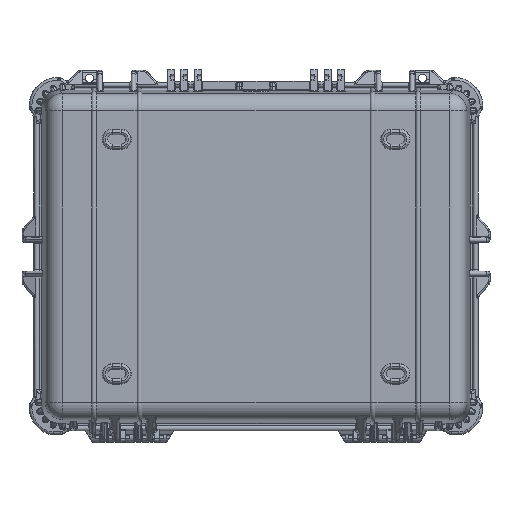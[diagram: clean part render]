
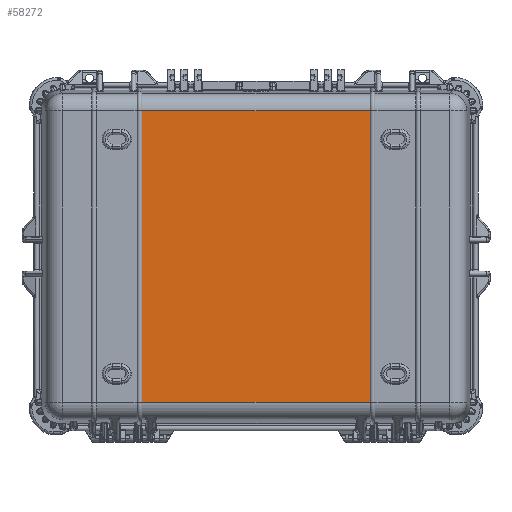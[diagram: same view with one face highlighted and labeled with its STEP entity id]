
A CAD part, front view. The second image highlights one B-rep face of the part: STEP entity #58272.
In plain terms, the highlighted planar face has unit normal (0, -1, 0).
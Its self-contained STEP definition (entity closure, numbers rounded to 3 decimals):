
#513 = EDGE_CURVE ( 'NONE', #9759, #29539, #38088, .T. ) ;
#4481 = EDGE_CURVE ( 'NONE', #8234, #70161, #16973, .T. ) ;
#5684 = CARTESIAN_POINT ( 'NONE',  ( 5.94, -6.37, 7.591 ) ) ;
#8234 = VERTEX_POINT ( 'NONE', #35857 ) ;
#9759 = VERTEX_POINT ( 'NONE', #37494 ) ;
#9784 = DIRECTION ( 'NONE',  ( 0., 0., 1. ) ) ;
#11681 = EDGE_CURVE ( 'NONE', #29539, #70161, #15611, .T. ) ;
#12168 = DIRECTION ( 'NONE',  ( 0., -1., 0. ) ) ;
#15611 = LINE ( 'NONE', #72987, #56069 ) ;
#16325 = DIRECTION ( 'NONE',  ( -1., 0., 0. ) ) ;
#16973 = LINE ( 'NONE', #39720, #34634 ) ;
#17283 = DIRECTION ( 'NONE',  ( 1., 0., 0. ) ) ;
#22180 = EDGE_LOOP ( 'NONE', ( #35375, #70834, #42696, #60054 ) ) ;
#24052 = DIRECTION ( 'NONE',  ( 0., 0., -1. ) ) ;
#24642 = CARTESIAN_POINT ( 'NONE',  ( -5.94, -6.37, 7.591 ) ) ;
#29539 = VERTEX_POINT ( 'NONE', #5684 ) ;
#32783 = EDGE_CURVE ( 'NONE', #8234, #9759, #57205, .T. ) ;
#34634 = VECTOR ( 'NONE', #62454, 39.37 ) ;
#35375 = ORIENTED_EDGE ( 'NONE', *, *, #11681, .T. ) ;
#35857 = CARTESIAN_POINT ( 'NONE',  ( -5.94, -6.37, -7.591 ) ) ;
#37494 = CARTESIAN_POINT ( 'NONE',  ( 5.94, -6.37, -7.591 ) ) ;
#38088 = LINE ( 'NONE', #54488, #41907 ) ;
#39720 = CARTESIAN_POINT ( 'NONE',  ( -5.94, -6.37, -7.591 ) ) ;
#41907 = VECTOR ( 'NONE', #9784, 39.37 ) ;
#42696 = ORIENTED_EDGE ( 'NONE', *, *, #32783, .T. ) ;
#46419 = PLANE ( 'NONE',  #63587 ) ;
#54488 = CARTESIAN_POINT ( 'NONE',  ( 5.94, -6.37, -7.591 ) ) ;
#56069 = VECTOR ( 'NONE', #16325, 39.37 ) ;
#57205 = LINE ( 'NONE', #73572, #69859 ) ;
#57992 = FACE_OUTER_BOUND ( 'NONE', #22180, .T. ) ;
#58272 = ADVANCED_FACE ( 'NONE', ( #57992 ), #46419, .T. ) ;
#60054 = ORIENTED_EDGE ( 'NONE', *, *, #513, .T. ) ;
#62454 = DIRECTION ( 'NONE',  ( 0., 0., 1. ) ) ;
#63587 = AXIS2_PLACEMENT_3D ( 'NONE', #73638, #12168, #24052 ) ;
#69859 = VECTOR ( 'NONE', #17283, 39.37 ) ;
#70161 = VERTEX_POINT ( 'NONE', #24642 ) ;
#70834 = ORIENTED_EDGE ( 'NONE', *, *, #4481, .F. ) ;
#72987 = CARTESIAN_POINT ( 'NONE',  ( -11.155, -6.37, 7.591 ) ) ;
#73572 = CARTESIAN_POINT ( 'NONE',  ( -11.155, -6.37, -7.591 ) ) ;
#73638 = CARTESIAN_POINT ( 'NONE',  ( -11.155, -6.37, -8.673 ) ) ;
